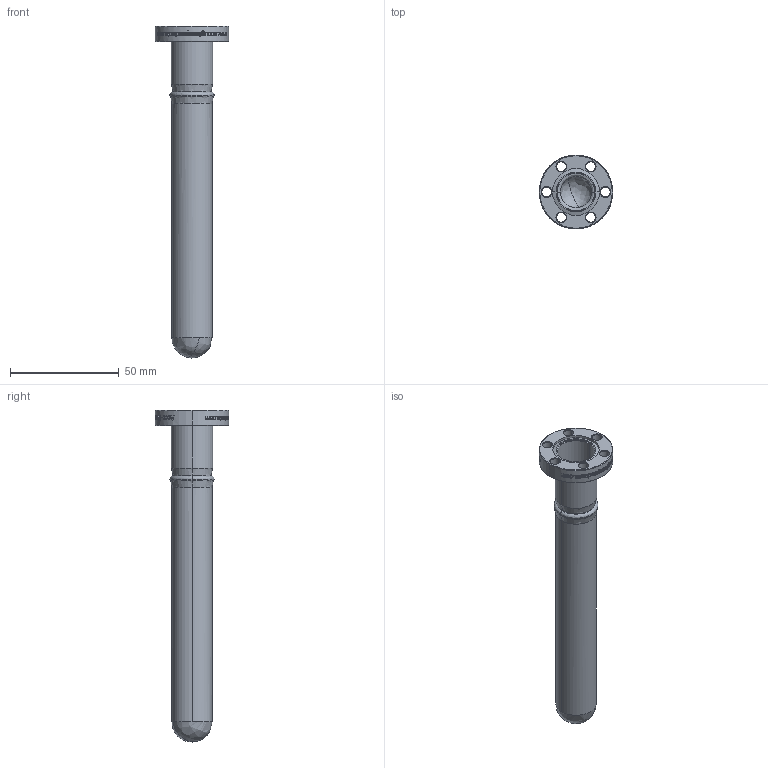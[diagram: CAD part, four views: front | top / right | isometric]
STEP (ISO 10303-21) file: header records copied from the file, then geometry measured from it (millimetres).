
FILE_DESCRIPTION (( 'STEP AP203' ), '1' );
FILE_NAME ('211001.stp', '2018-05-22T14:28:31', ( '' ), ( '' ), 'SwSTEP 2.0', 'SolidWorks 2012', '' );
FILE_SCHEMA (( 'CONFIG_CONTROL_DESIGN' ));
Length unit declared in the file: centimetre
Products named in the file (1): 211001
Bounding box: 33.78 x 33.78 x 152.38 mm (x, y, z)
Volume: 13654.6 mm3; surface area: 18852.1 mm2
Topology: 1 solids, 1 shells, 881 faces, 2406 edges, 1586 vertices
Faces by surface type: bspline 530, plane 231, cylinder 88, cone 32
Entity records: 64575 total; most frequent: CARTESIAN_POINT 45470, ORIENTED_EDGE 4804, DIRECTION 2446, EDGE_CURVE 2402, VERTEX_POINT 1586, B_SPLINE_CURVE_WITH_KNOTS 1028, LINE 1006, VECTOR 1006
